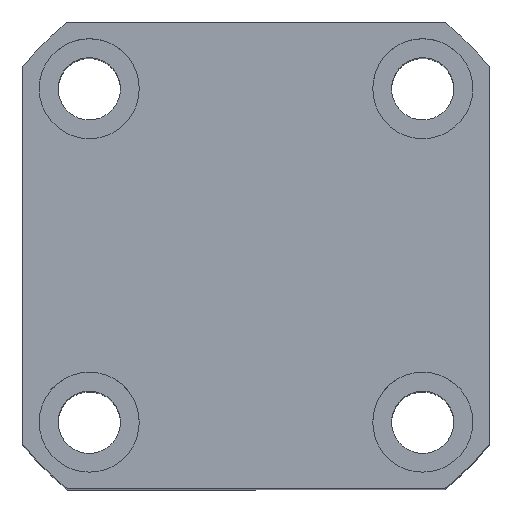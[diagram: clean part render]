
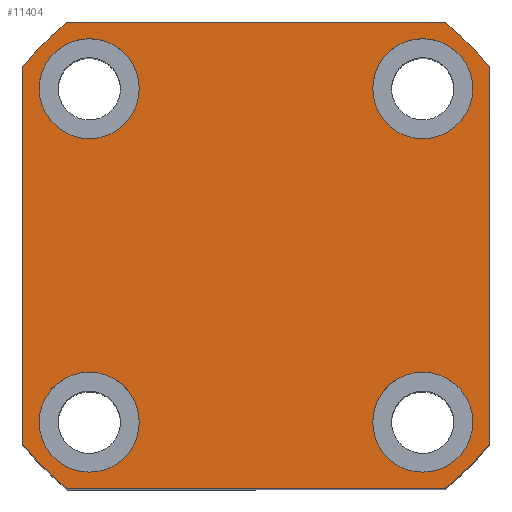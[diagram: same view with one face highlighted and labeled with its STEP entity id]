
A CAD part, top view. The second image highlights one B-rep face of the part: STEP entity #11404.
In plain terms, the highlighted planar face has unit normal (0, 0, 1).
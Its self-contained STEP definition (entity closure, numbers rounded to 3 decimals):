
#132 = ORIENTED_EDGE ( 'NONE', *, *, #2099, .T. ) ;
#179 = CARTESIAN_POINT ( 'NONE',  ( -21., -16.971, 58. ) ) ;
#207 = DIRECTION ( 'NONE',  ( 1., 0., 0. ) ) ;
#349 = DIRECTION ( 'NONE',  ( 0., 0., 1. ) ) ;
#354 = LINE ( 'NONE', #2476, #3233 ) ;
#667 = VERTEX_POINT ( 'NONE', #10709 ) ;
#1059 = CARTESIAN_POINT ( 'NONE',  ( -15., 15.002, 58. ) ) ;
#1153 = ORIENTED_EDGE ( 'NONE', *, *, #8097, .F. ) ;
#1191 = DIRECTION ( 'NONE',  ( 0., 0., 1. ) ) ;
#1319 = CARTESIAN_POINT ( 'NONE',  ( 0., 0., 58. ) ) ;
#1417 = CARTESIAN_POINT ( 'NONE',  ( -15., -14.998, 58. ) ) ;
#1864 = AXIS2_PLACEMENT_3D ( 'NONE', #10232, #3829, #11304 ) ;
#2012 = AXIS2_PLACEMENT_3D ( 'NONE', #7723, #4560, #11996 ) ;
#2078 = DIRECTION ( 'NONE',  ( 0., 0., 1. ) ) ;
#2099 = EDGE_CURVE ( 'NONE', #2503, #4749, #9814, .T. ) ;
#2151 = DIRECTION ( 'NONE',  ( 1., 0., 0. ) ) ;
#2188 = AXIS2_PLACEMENT_3D ( 'NONE', #1417, #8939, #2493 ) ;
#2210 = VERTEX_POINT ( 'NONE', #7850 ) ;
#2244 = CIRCLE ( 'NONE', #8199, 27. ) ;
#2363 = EDGE_CURVE ( 'NONE', #4749, #8060, #2760, .T. ) ;
#2404 = DIRECTION ( 'NONE',  ( 1., 0., 0. ) ) ;
#2426 = CIRCLE ( 'NONE', #13545, 4.5 ) ;
#2430 = CIRCLE ( 'NONE', #7618, 27. ) ;
#2465 = EDGE_CURVE ( 'NONE', #7270, #2503, #2430, .T. ) ;
#2476 = CARTESIAN_POINT ( 'NONE',  ( -21., 21., 58. ) ) ;
#2493 = DIRECTION ( 'NONE',  ( 1., 0., 0. ) ) ;
#2503 = VERTEX_POINT ( 'NONE', #7373 ) ;
#2525 = DIRECTION ( 'NONE',  ( 0., 0., 1. ) ) ;
#2536 = EDGE_CURVE ( 'NONE', #5419, #10906, #4965, .T. ) ;
#2674 = ORIENTED_EDGE ( 'NONE', *, *, #10805, .F. ) ;
#2701 = AXIS2_PLACEMENT_3D ( 'NONE', #8974, #2525, #10028 ) ;
#2760 = CIRCLE ( 'NONE', #1864, 27. ) ;
#3233 = VECTOR ( 'NONE', #8918, 1000. ) ;
#3263 = EDGE_CURVE ( 'NONE', #8792, #7208, #9140, .T. ) ;
#3349 = ORIENTED_EDGE ( 'NONE', *, *, #11242, .F. ) ;
#3358 = CARTESIAN_POINT ( 'NONE',  ( 21., 21., 58. ) ) ;
#3468 = EDGE_LOOP ( 'NONE', ( #132, #6221, #4713, #4223, #11232, #12553, #13210, #5738 ) ) ;
#3482 = DIRECTION ( 'NONE',  ( 0., 0., 1. ) ) ;
#3534 = VERTEX_POINT ( 'NONE', #13574 ) ;
#3768 = FACE_BOUND ( 'NONE', #6985, .T. ) ;
#3829 = DIRECTION ( 'NONE',  ( 0., 0., 1. ) ) ;
#3927 = LINE ( 'NONE', #11093, #6431 ) ;
#4090 = VERTEX_POINT ( 'NONE', #4762 ) ;
#4125 = FACE_BOUND ( 'NONE', #6824, .T. ) ;
#4212 = CARTESIAN_POINT ( 'NONE',  ( 16.971, -21., 58. ) ) ;
#4223 = ORIENTED_EDGE ( 'NONE', *, *, #12114, .T. ) ;
#4226 = DIRECTION ( 'NONE',  ( 1., 0., 0. ) ) ;
#4265 = CIRCLE ( 'NONE', #7456, 4.5 ) ;
#4560 = DIRECTION ( 'NONE',  ( 0., 0., 1. ) ) ;
#4622 = EDGE_CURVE ( 'NONE', #2210, #3534, #4265, .T. ) ;
#4713 = ORIENTED_EDGE ( 'NONE', *, *, #6264, .T. ) ;
#4749 = VERTEX_POINT ( 'NONE', #8241 ) ;
#4762 = CARTESIAN_POINT ( 'NONE',  ( -16.971, 21., 58. ) ) ;
#4787 = CIRCLE ( 'NONE', #6581, 4.5 ) ;
#4965 = CIRCLE ( 'NONE', #9775, 4.5 ) ;
#5382 = ORIENTED_EDGE ( 'NONE', *, *, #3263, .F. ) ;
#5419 = VERTEX_POINT ( 'NONE', #7181 ) ;
#5738 = ORIENTED_EDGE ( 'NONE', *, *, #2465, .T. ) ;
#6221 = ORIENTED_EDGE ( 'NONE', *, *, #2363, .T. ) ;
#6264 = EDGE_CURVE ( 'NONE', #8060, #4090, #3927, .T. ) ;
#6291 = FACE_OUTER_BOUND ( 'NONE', #3468, .T. ) ;
#6308 = DIRECTION ( 'NONE',  ( 0., 0., 1. ) ) ;
#6355 = LINE ( 'NONE', #11678, #9201 ) ;
#6359 = EDGE_LOOP ( 'NONE', ( #5382, #2674 ) ) ;
#6431 = VECTOR ( 'NONE', #13204, 1000. ) ;
#6447 = DIRECTION ( 'NONE',  ( 0., 0., 1. ) ) ;
#6479 = AXIS2_PLACEMENT_3D ( 'NONE', #1319, #8854, #2404 ) ;
#6497 = CARTESIAN_POINT ( 'NONE',  ( 16.971, 21., 58. ) ) ;
#6581 = AXIS2_PLACEMENT_3D ( 'NONE', #1059, #8579, #2151 ) ;
#6649 = DIRECTION ( 'NONE',  ( 0., 0., 1. ) ) ;
#6654 = EDGE_CURVE ( 'NONE', #11826, #7270, #6355, .T. ) ;
#6743 = CARTESIAN_POINT ( 'NONE',  ( 19.5, 15., 58. ) ) ;
#6792 = CARTESIAN_POINT ( 'NONE',  ( 15., 15., 58. ) ) ;
#6824 = EDGE_LOOP ( 'NONE', ( #8018, #1153 ) ) ;
#6952 = VECTOR ( 'NONE', #7675, 1000. ) ;
#6985 = EDGE_LOOP ( 'NONE', ( #7710, #3349 ) ) ;
#7181 = CARTESIAN_POINT ( 'NONE',  ( -19.5, -14.998, 58. ) ) ;
#7208 = VERTEX_POINT ( 'NONE', #11621 ) ;
#7270 = VERTEX_POINT ( 'NONE', #4212 ) ;
#7274 = CIRCLE ( 'NONE', #2188, 4.5 ) ;
#7373 = CARTESIAN_POINT ( 'NONE',  ( 21., -16.971, 58. ) ) ;
#7456 = AXIS2_PLACEMENT_3D ( 'NONE', #13029, #6649, #207 ) ;
#7618 = AXIS2_PLACEMENT_3D ( 'NONE', #12679, #6308, #13752 ) ;
#7627 = CARTESIAN_POINT ( 'NONE',  ( 15., -14.998, 58. ) ) ;
#7675 = DIRECTION ( 'NONE',  ( 0., 1., 0. ) ) ;
#7710 = ORIENTED_EDGE ( 'NONE', *, *, #4622, .F. ) ;
#7723 = CARTESIAN_POINT ( 'NONE',  ( 0., 0., 58. ) ) ;
#7850 = CARTESIAN_POINT ( 'NONE',  ( -10.5, 15.002, 58. ) ) ;
#7871 = DIRECTION ( 'NONE',  ( 1., 0., 0. ) ) ;
#8018 = ORIENTED_EDGE ( 'NONE', *, *, #8852, .F. ) ;
#8060 = VERTEX_POINT ( 'NONE', #6497 ) ;
#8097 = EDGE_CURVE ( 'NONE', #8603, #11700, #11498, .T. ) ;
#8199 = AXIS2_PLACEMENT_3D ( 'NONE', #9902, #3482, #10983 ) ;
#8224 = CARTESIAN_POINT ( 'NONE',  ( 19.5, -14.998, 58. ) ) ;
#8241 = CARTESIAN_POINT ( 'NONE',  ( 21., 16.971, 58. ) ) ;
#8424 = CARTESIAN_POINT ( 'NONE',  ( -16.971, -21., 58. ) ) ;
#8505 = CARTESIAN_POINT ( 'NONE',  ( -15., -14.998, 58. ) ) ;
#8538 = EDGE_LOOP ( 'NONE', ( #12196, #12016 ) ) ;
#8579 = DIRECTION ( 'NONE',  ( 0., 0., 1. ) ) ;
#8603 = VERTEX_POINT ( 'NONE', #10803 ) ;
#8716 = DIRECTION ( 'NONE',  ( 1., 0., 0. ) ) ;
#8792 = VERTEX_POINT ( 'NONE', #6743 ) ;
#8852 = EDGE_CURVE ( 'NONE', #11700, #8603, #9995, .T. ) ;
#8854 = DIRECTION ( 'NONE',  ( 0., 0., 1. ) ) ;
#8918 = DIRECTION ( 'NONE',  ( 0., -1., 0. ) ) ;
#8939 = DIRECTION ( 'NONE',  ( 0., 0., 1. ) ) ;
#8974 = CARTESIAN_POINT ( 'NONE',  ( 15., -14.998, 58. ) ) ;
#9139 = FACE_BOUND ( 'NONE', #6359, .T. ) ;
#9140 = CIRCLE ( 'NONE', #9950, 4.5 ) ;
#9201 = VECTOR ( 'NONE', #4226, 1000. ) ;
#9485 = EDGE_CURVE ( 'NONE', #12066, #11826, #9506, .T. ) ;
#9506 = CIRCLE ( 'NONE', #6479, 27. ) ;
#9581 = DIRECTION ( 'NONE',  ( 1., 0., 0. ) ) ;
#9775 = AXIS2_PLACEMENT_3D ( 'NONE', #8505, #2078, #9581 ) ;
#9814 = LINE ( 'NONE', #3358, #6952 ) ;
#9902 = CARTESIAN_POINT ( 'NONE',  ( 0., 0., 58. ) ) ;
#9950 = AXIS2_PLACEMENT_3D ( 'NONE', #12826, #6447, #13905 ) ;
#9995 = CIRCLE ( 'NONE', #2701, 4.5 ) ;
#10028 = DIRECTION ( 'NONE',  ( 1., 0., 0. ) ) ;
#10067 = CARTESIAN_POINT ( 'NONE',  ( -10.5, -14.998, 58. ) ) ;
#10232 = CARTESIAN_POINT ( 'NONE',  ( 0., 0., 58. ) ) ;
#10697 = AXIS2_PLACEMENT_3D ( 'NONE', #7627, #1191, #8716 ) ;
#10709 = CARTESIAN_POINT ( 'NONE',  ( -21., 16.971, 58. ) ) ;
#10803 = CARTESIAN_POINT ( 'NONE',  ( 10.5, -14.998, 58. ) ) ;
#10805 = EDGE_CURVE ( 'NONE', #7208, #8792, #2426, .T. ) ;
#10906 = VERTEX_POINT ( 'NONE', #10067 ) ;
#10951 = PLANE ( 'NONE',  #2012 ) ;
#10983 = DIRECTION ( 'NONE',  ( 1., 0., 0. ) ) ;
#11093 = CARTESIAN_POINT ( 'NONE',  ( -21., 21., 58. ) ) ;
#11232 = ORIENTED_EDGE ( 'NONE', *, *, #12933, .T. ) ;
#11242 = EDGE_CURVE ( 'NONE', #3534, #2210, #4787, .T. ) ;
#11304 = DIRECTION ( 'NONE',  ( 1., 0., 0. ) ) ;
#11404 = ADVANCED_FACE ( 'NONE', ( #3768, #11942, #4125, #9139, #6291 ), #10951, .T. ) ;
#11498 = CIRCLE ( 'NONE', #10697, 4.5 ) ;
#11621 = CARTESIAN_POINT ( 'NONE',  ( 10.5, 15., 58. ) ) ;
#11678 = CARTESIAN_POINT ( 'NONE',  ( -21., -21., 58. ) ) ;
#11700 = VERTEX_POINT ( 'NONE', #8224 ) ;
#11826 = VERTEX_POINT ( 'NONE', #8424 ) ;
#11942 = FACE_BOUND ( 'NONE', #8538, .T. ) ;
#11996 = DIRECTION ( 'NONE',  ( 1., 0., 0. ) ) ;
#12016 = ORIENTED_EDGE ( 'NONE', *, *, #2536, .F. ) ;
#12066 = VERTEX_POINT ( 'NONE', #179 ) ;
#12114 = EDGE_CURVE ( 'NONE', #4090, #667, #2244, .T. ) ;
#12190 = EDGE_CURVE ( 'NONE', #10906, #5419, #7274, .T. ) ;
#12196 = ORIENTED_EDGE ( 'NONE', *, *, #12190, .F. ) ;
#12553 = ORIENTED_EDGE ( 'NONE', *, *, #9485, .T. ) ;
#12679 = CARTESIAN_POINT ( 'NONE',  ( 0., 0., 58. ) ) ;
#12826 = CARTESIAN_POINT ( 'NONE',  ( 15., 15., 58. ) ) ;
#12933 = EDGE_CURVE ( 'NONE', #667, #12066, #354, .T. ) ;
#13029 = CARTESIAN_POINT ( 'NONE',  ( -15., 15.002, 58. ) ) ;
#13204 = DIRECTION ( 'NONE',  ( -1., 0., 0. ) ) ;
#13210 = ORIENTED_EDGE ( 'NONE', *, *, #6654, .T. ) ;
#13545 = AXIS2_PLACEMENT_3D ( 'NONE', #6792, #349, #7871 ) ;
#13574 = CARTESIAN_POINT ( 'NONE',  ( -19.5, 15.002, 58. ) ) ;
#13752 = DIRECTION ( 'NONE',  ( 1., 0., 0. ) ) ;
#13905 = DIRECTION ( 'NONE',  ( 1., 0., 0. ) ) ;
